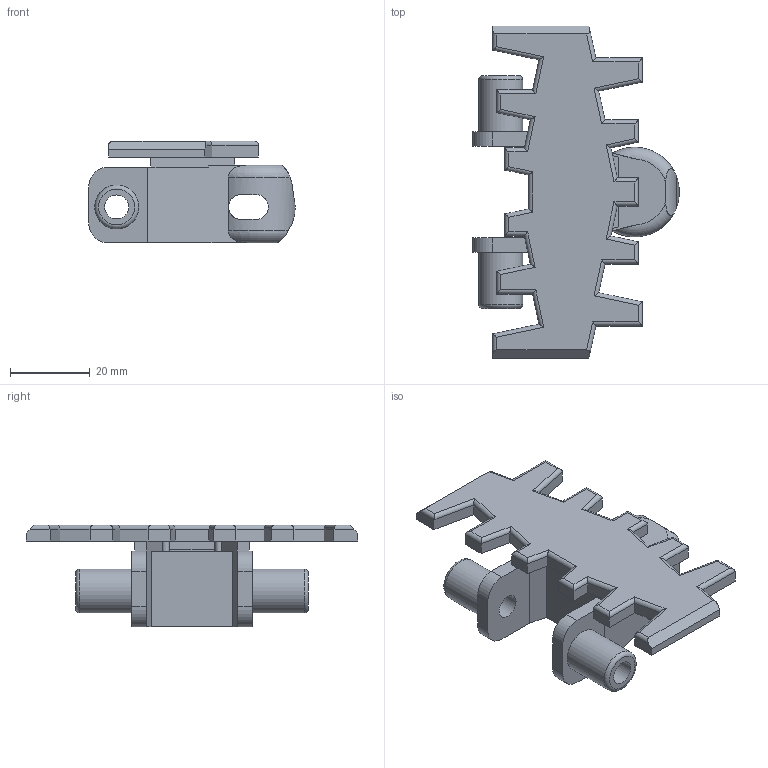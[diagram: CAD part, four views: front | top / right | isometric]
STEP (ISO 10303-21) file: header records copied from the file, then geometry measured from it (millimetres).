
FILE_DESCRIPTION(/* description */ ('Glattes Kettenglied'),/* implementation_level */ '2;1');
FILE_NAME(/* name */ 'T:\vdz0\Step Daten Website\modulflex FM-System\Kettenglieder\FMTL83_43850.stp',/* time_stamp */ '2024-09-05T09:49:33+02:00',/* author */ ('lzb0'),/* organization */ ('modular automation GmbH'),/* preprocessor_version */ 'ST-DEVELOPER v18.1',/* originating_system */ 'Autodesk Inventor 2021',/* authorisation */ '');
FILE_SCHEMA (('AUTOMOTIVE_DESIGN { 1 0 10303 214 3 1 1 }'));
Length unit declared in the file: millimetre
Products named in the file (1): FMTL 83
Bounding box: 51.65 x 83 x 25.5 mm (x, y, z)
Volume: 19971.7 mm3; surface area: 13434.6 mm2
Topology: 1 solids, 1 shells, 165 faces, 448 edges, 281 vertices
Faces by surface type: plane 92, cylinder 67, torus 6
Full cylindrical faces by diameter (mm): 6 x2, 11 x2, 13 x1
Entity records: 5331 total; most frequent: CARTESIAN_POINT 1141, ORIENTED_EDGE 878, DIRECTION 852, EDGE_CURVE 439, LINE 316, VECTOR 316, VERTEX_POINT 277, AXIS2_PLACEMENT_3D 268
